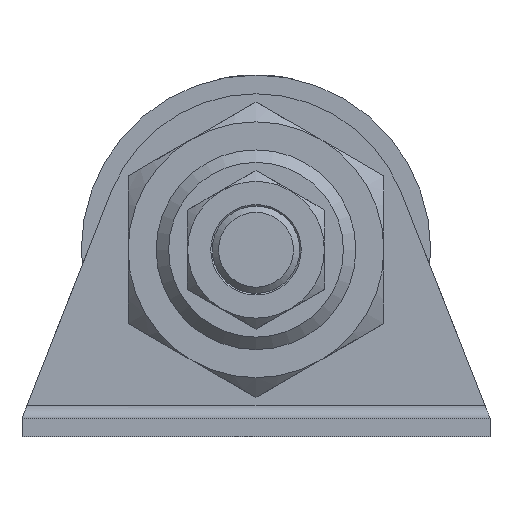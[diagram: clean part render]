
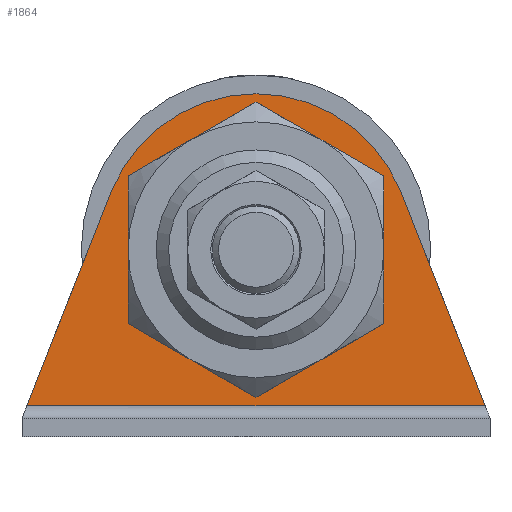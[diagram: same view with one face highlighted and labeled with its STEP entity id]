
A CAD part, front view. The second image highlights one B-rep face of the part: STEP entity #1864.
In plain terms, the highlighted planar face has unit normal (0, -1, 0).
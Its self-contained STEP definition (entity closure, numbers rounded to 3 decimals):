
#40=LINE('',#2859,#94);
#45=LINE('',#2877,#99);
#46=LINE('',#2884,#100);
#94=VECTOR('',#2339,1000.);
#99=VECTOR('',#2356,1000.);
#100=VECTOR('',#2365,1000.);
#232=PLANE('',#2045);
#296=CIRCLE('',#2039,25.);
#297=CIRCLE('',#2043,16.);
#494=ORIENTED_EDGE('',*,*,#726,.F.);
#495=ORIENTED_EDGE('',*,*,#725,.T.);
#496=ORIENTED_EDGE('',*,*,#728,.T.);
#497=ORIENTED_EDGE('',*,*,#716,.T.);
#498=ORIENTED_EDGE('',*,*,#721,.T.);
#716=EDGE_CURVE('',#860,#859,#40,.T.);
#721=EDGE_CURVE('',#859,#863,#296,.T.);
#725=EDGE_CURVE('',#863,#866,#45,.T.);
#726=EDGE_CURVE('',#867,#867,#297,.T.);
#728=EDGE_CURVE('',#866,#860,#46,.T.);
#859=VERTEX_POINT('',#2858);
#860=VERTEX_POINT('',#2860);
#863=VERTEX_POINT('',#2868);
#866=VERTEX_POINT('',#2876);
#867=VERTEX_POINT('',#2880);
#1037=EDGE_LOOP('',(#494));
#1038=EDGE_LOOP('',(#495,#496,#497,#498));
#1185=FACE_BOUND('',#1037,.T.);
#1186=FACE_BOUND('',#1038,.T.);
#1864=ADVANCED_FACE('',(#1185,#1186),#232,.T.);
#2039=AXIS2_PLACEMENT_3D('',#2869,#2348,#2349);
#2043=AXIS2_PLACEMENT_3D('',#2879,#2359,#2360);
#2045=AXIS2_PLACEMENT_3D('',#2883,#2363,#2364);
#2339=DIRECTION('',(-0.366,0.,0.93));
#2348=DIRECTION('',(0.,-1.,0.));
#2349=DIRECTION('',(1.,0.,0.));
#2356=DIRECTION('',(-0.366,0.,-0.93));
#2359=DIRECTION('',(0.,-1.,0.));
#2360=DIRECTION('',(1.,0.,0.));
#2363=DIRECTION('',(0.,-1.,0.));
#2364=DIRECTION('',(0.,0.,-1.));
#2365=DIRECTION('',(1.,0.,0.));
#2858=CARTESIAN_POINT('',(23.262,-3.,9.16));
#2859=CARTESIAN_POINT('',(37.5,-3.,-27.));
#2860=CARTESIAN_POINT('',(36.712,-3.,-25.));
#2868=CARTESIAN_POINT('',(-23.262,-3.,9.16));
#2869=CARTESIAN_POINT('',(0.,-3.,0.));
#2876=CARTESIAN_POINT('',(-36.712,-3.,-25.));
#2877=CARTESIAN_POINT('',(-37.5,-3.,-27.));
#2879=CARTESIAN_POINT('',(0.,-3.,0.));
#2880=CARTESIAN_POINT('',(16.,-3.,0.));
#2883=CARTESIAN_POINT('',(0.,-3.,0.));
#2884=CARTESIAN_POINT('',(37.5,-3.,-25.));
